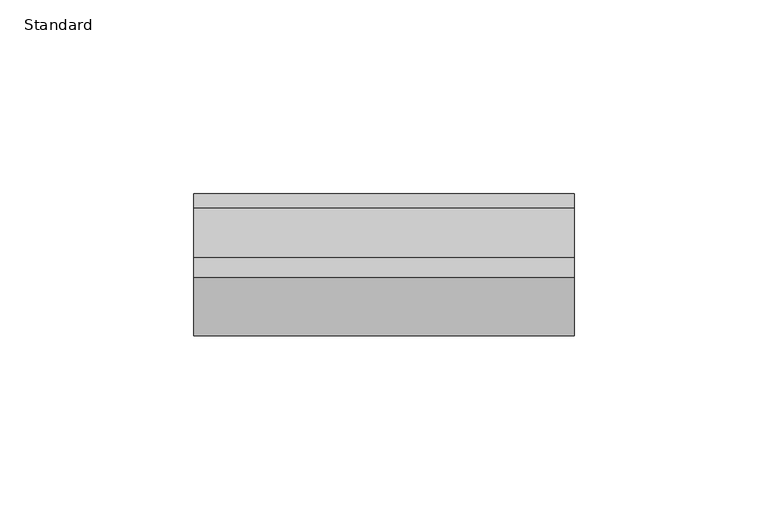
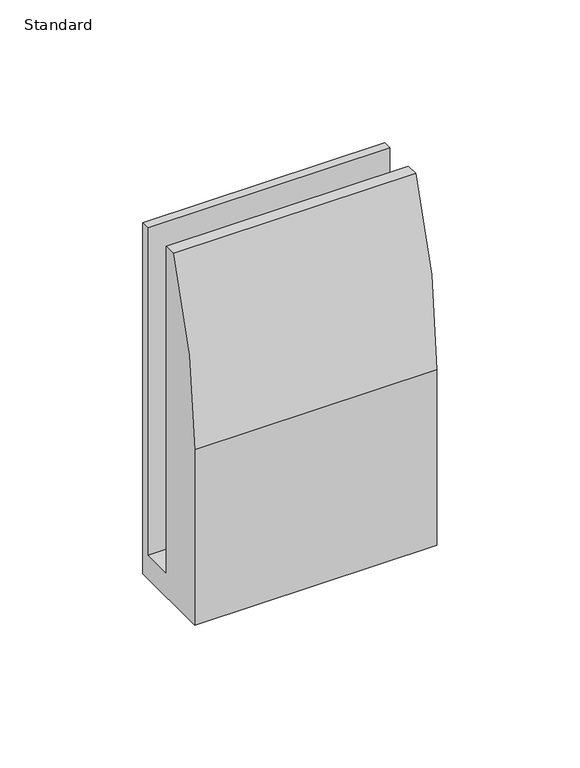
"""IFC4 building model written with IfcOpenShell, lengths in millimetres: furniture geometry, X_Partition-Channel-Duracube-Skirting : Standard."""

from ifc_helpers import new_model, si_unit, point, frame, frame_2d, origin, place, context, project, spatial, polyline, circle_curve, trimmed, segment, composite_curve, outline, extrude, source, transform, mapped, element, save


def standard_e9757195(model_context):
    return source(origin(), model_context, "Body", "SweptSolid", [
        extrude(outline(composite_curve([segment(polyline([(-3.5, 150.0), (0.0, 150.0), (0.0, 0.0), (-36.5, 0.0), (-36.5, 75.0)]), True, "CONTINUOUS"), segment(trimmed(circle_curve(frame_2d((158.5, 75.0)), 195.0), [point((-36.5, 75.0))], [point((-21.5, 150.0))], False, "CARTESIAN"), True, "CONTINUOUS"), segment(polyline([(-21.5, 150.0), (-16.5, 150.0), (-16.5, 10.000005), (-3.5, 10.000005), (-3.5, 150.0)]), True, "CONTINUOUS")], self_intersect=False)), frame((-4.2996736, 0.0, 0.0), z_axis=(1.0, 0.0, 0.0), x_axis=(0.0, 1.0, 0.0)), (0.0, 0.0, 1.0), 98.0),
    ])


if __name__ == "__main__":
    model = new_model("IFC4")
    model_context = context("Model", 3, world=origin())
    ifc_project = project(units=[si_unit("LENGTHUNIT", "METRE", prefix="MILLI")], contexts=[model_context])
    site = spatial("IfcSite", under=ifc_project)
    building = spatial("IfcBuilding", under=site)
    placement = place(None, origin())
    standard_shape = standard_e9757195(model_context)
    element("IfcFurniture", 1, ObjectType="X_Partition-Channel-Duracube-Skirting : Standard", at=placement, inside=building, context=model_context, shape_type="MappedRepresentation", body=[
        mapped(standard_shape, transform((0.0, 0.0, 0.0), x_axis=(1.0, 0.0, 0.0), y_axis=(0.0, 1.0, 0.0), z_axis=(0.0, 0.0, 1.0))),
    ])
    save(model, "model.ifc")
